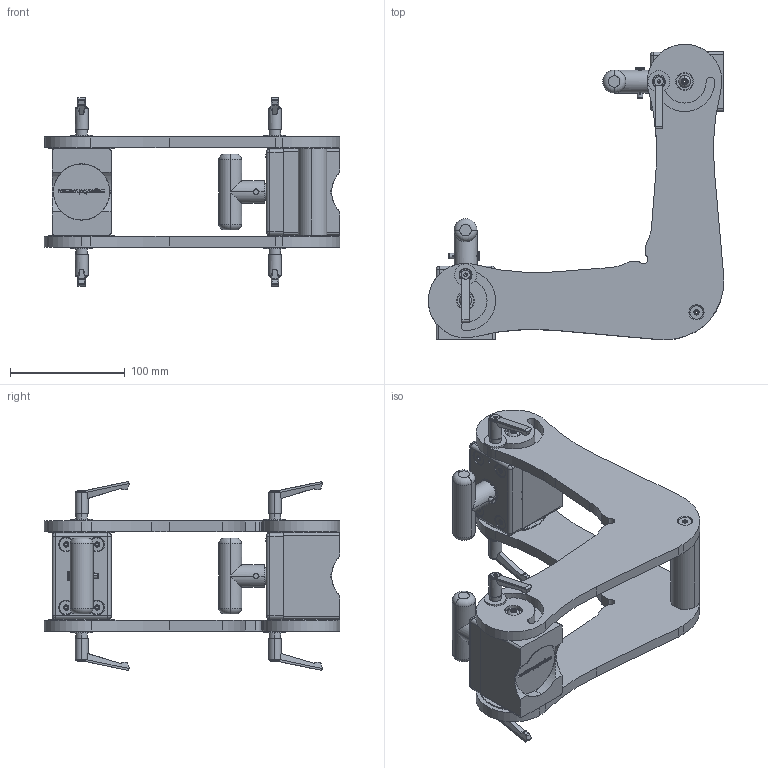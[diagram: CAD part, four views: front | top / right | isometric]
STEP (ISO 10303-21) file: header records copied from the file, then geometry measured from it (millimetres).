
FILE_DESCRIPTION (( 'STEP AP203' ), '1' );
FILE_NAME ('8000090.STEP', '2013-10-02T16:39:35', ( '' ), ( '' ), 'SwSTEP 2.0', 'SolidWorks 2010', '' );
FILE_SCHEMA (( 'CONFIG_CONTROL_DESIGN' ));
Length unit declared in the file: millimetre
Products named in the file (1): 8000090
Bounding box: 257.5 x 257.5 x 164.31 mm (x, y, z)
Surface area: 223393.1 mm2 (no closed solid volume)
Topology: 0 solids, 70 shells, 704 faces, 3412 edges, 2688 vertices
Faces by surface type: plane 307, cylinder 199, cone 148, torus 32, sphere 16, bspline 2
Entity records: 35564 total; most frequent: CARTESIAN_POINT 8865, DIRECTION 5454, ORIENTED_EDGE 4681, EDGE_CURVE 3402, VERTEX_POINT 2688, VECTOR 2328, LINE 2328, AXIS2_PLACEMENT_3D 1563
